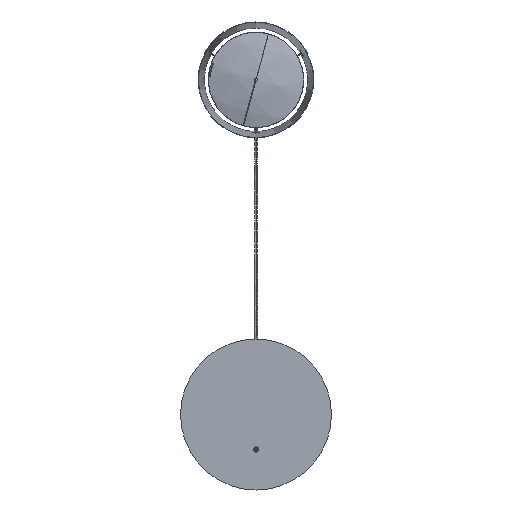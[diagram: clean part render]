
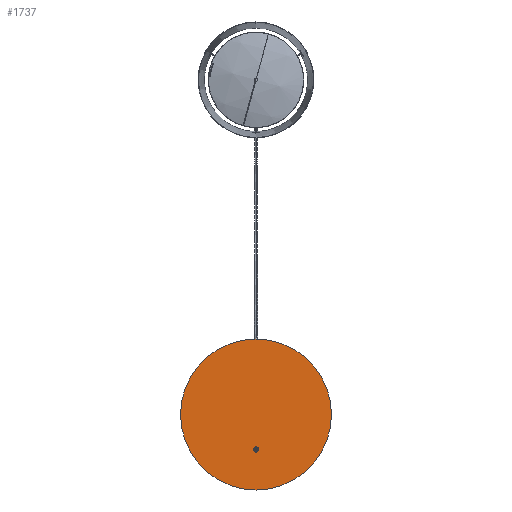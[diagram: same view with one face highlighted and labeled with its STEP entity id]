
A CAD part, front view. The second image highlights one B-rep face of the part: STEP entity #1737.
In plain terms, the highlighted planar face has unit normal (0, -1, 0).
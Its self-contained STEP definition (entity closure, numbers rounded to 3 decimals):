
#11 = ORIENTED_EDGE ( 'NONE', *, *, #4190, .T. ) ;
#60 = DIRECTION ( 'NONE',  ( 0., 0., 1. ) ) ;
#98 = ORIENTED_EDGE ( 'NONE', *, *, #8011, .T. ) ;
#394 = CARTESIAN_POINT ( 'NONE',  ( 0., 0., -130. ) ) ;
#1166 = EDGE_LOOP ( 'NONE', ( #11850, #11446 ) ) ;
#1453 = DIRECTION ( 'NONE',  ( 0., 0., 1. ) ) ;
#1483 = AXIS2_PLACEMENT_3D ( 'NONE', #1677, #1741, #11431 ) ;
#1642 = EDGE_CURVE ( 'NONE', #8529, #10278, #8246, .T. ) ;
#1677 = CARTESIAN_POINT ( 'NONE',  ( 0., 0., -140. ) ) ;
#1737 = ADVANCED_FACE ( 'NONE', ( #12102, #3185 ), #9163, .F. ) ;
#1741 = DIRECTION ( 'NONE',  ( 0., 1., 0. ) ) ;
#2022 = CARTESIAN_POINT ( 'NONE',  ( 0., 0., -132. ) ) ;
#2167 = VERTEX_POINT ( 'NONE', #10615 ) ;
#2359 = AXIS2_PLACEMENT_3D ( 'NONE', #4560, #12585, #1453 ) ;
#2584 = CARTESIAN_POINT ( 'NONE',  ( 0., 0., -140. ) ) ;
#2590 = CARTESIAN_POINT ( 'NONE',  ( -1.672, 0., -130.902 ) ) ;
#3185 = FACE_OUTER_BOUND ( 'NONE', #1166, .T. ) ;
#3501 = DIRECTION ( 'NONE',  ( 0., 1., 0. ) ) ;
#3874 = CARTESIAN_POINT ( 'NONE',  ( 0., 0., 300. ) ) ;
#4190 = EDGE_CURVE ( 'NONE', #8338, #7743, #10578, .T. ) ;
#4307 = AXIS2_PLACEMENT_3D ( 'NONE', #2022, #4945, #8791 ) ;
#4340 = CARTESIAN_POINT ( 'NONE',  ( 0., 0., 0. ) ) ;
#4407 = CARTESIAN_POINT ( 'NONE',  ( 0., 0., -132. ) ) ;
#4560 = CARTESIAN_POINT ( 'NONE',  ( 0., 0., 0. ) ) ;
#4769 = CIRCLE ( 'NONE', #9964, 300. ) ;
#4945 = DIRECTION ( 'NONE',  ( 0., 1., 0. ) ) ;
#5422 = AXIS2_PLACEMENT_3D ( 'NONE', #4407, #3501, #11568 ) ;
#5603 = EDGE_CURVE ( 'NONE', #2167, #12013, #4769, .T. ) ;
#5816 = CIRCLE ( 'NONE', #1483, 9.25 ) ;
#5967 = DIRECTION ( 'NONE',  ( 0., 1., 0. ) ) ;
#6010 = CARTESIAN_POINT ( 'NONE',  ( 1.672, 0., -130.902 ) ) ;
#6286 = CIRCLE ( 'NONE', #2359, 300. ) ;
#6744 = EDGE_CURVE ( 'NONE', #7743, #8529, #5816, .T. ) ;
#6822 = ORIENTED_EDGE ( 'NONE', *, *, #1642, .T. ) ;
#7195 = DIRECTION ( 'NONE',  ( 0., 1., 0. ) ) ;
#7743 = VERTEX_POINT ( 'NONE', #9564 ) ;
#7936 = EDGE_LOOP ( 'NONE', ( #11, #8960, #6822, #98 ) ) ;
#8011 = EDGE_CURVE ( 'NONE', #10278, #8338, #9380, .T. ) ;
#8246 = CIRCLE ( 'NONE', #4307, 2. ) ;
#8274 = AXIS2_PLACEMENT_3D ( 'NONE', #2584, #10370, #12345 ) ;
#8338 = VERTEX_POINT ( 'NONE', #6010 ) ;
#8529 = VERTEX_POINT ( 'NONE', #2590 ) ;
#8791 = DIRECTION ( 'NONE',  ( 0., 0., 1. ) ) ;
#8960 = ORIENTED_EDGE ( 'NONE', *, *, #6744, .T. ) ;
#9163 = PLANE ( 'NONE',  #12651 ) ;
#9380 = CIRCLE ( 'NONE', #5422, 2. ) ;
#9564 = CARTESIAN_POINT ( 'NONE',  ( 0., 0., -149.25 ) ) ;
#9964 = AXIS2_PLACEMENT_3D ( 'NONE', #11686, #5967, #60 ) ;
#10278 = VERTEX_POINT ( 'NONE', #394 ) ;
#10370 = DIRECTION ( 'NONE',  ( 0., 1., 0. ) ) ;
#10578 = CIRCLE ( 'NONE', #8274, 9.25 ) ;
#10615 = CARTESIAN_POINT ( 'NONE',  ( 0., 0., -300. ) ) ;
#11431 = DIRECTION ( 'NONE',  ( 0., 0., 1. ) ) ;
#11446 = ORIENTED_EDGE ( 'NONE', *, *, #12702, .F. ) ;
#11568 = DIRECTION ( 'NONE',  ( 0., 0., 1. ) ) ;
#11686 = CARTESIAN_POINT ( 'NONE',  ( 0., 0., 0. ) ) ;
#11850 = ORIENTED_EDGE ( 'NONE', *, *, #5603, .F. ) ;
#12013 = VERTEX_POINT ( 'NONE', #3874 ) ;
#12102 = FACE_BOUND ( 'NONE', #7936, .T. ) ;
#12229 = DIRECTION ( 'NONE',  ( 0., 0., 1. ) ) ;
#12345 = DIRECTION ( 'NONE',  ( 0., 0., 1. ) ) ;
#12585 = DIRECTION ( 'NONE',  ( 0., 1., 0. ) ) ;
#12651 = AXIS2_PLACEMENT_3D ( 'NONE', #4340, #7195, #12229 ) ;
#12702 = EDGE_CURVE ( 'NONE', #12013, #2167, #6286, .T. ) ;
